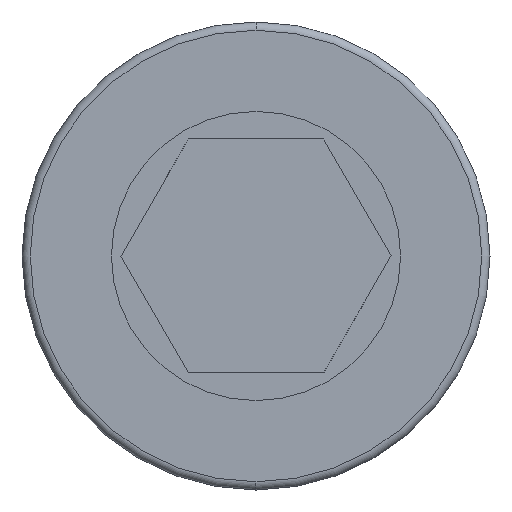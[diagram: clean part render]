
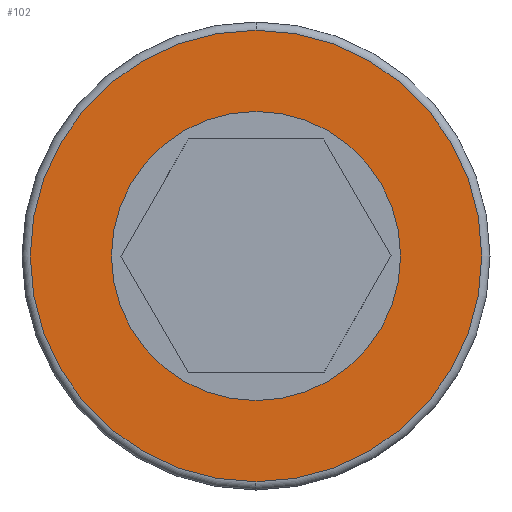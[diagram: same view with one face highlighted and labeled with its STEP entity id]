
A CAD part, front view. The second image highlights one B-rep face of the part: STEP entity #102.
In plain terms, the highlighted planar face has unit normal (0, -1, 0).
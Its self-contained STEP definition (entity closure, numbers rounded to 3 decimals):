
#102=ADVANCED_FACE('',(#183,#184),#185,.T.);
#183=FACE_OUTER_BOUND('',#330,.T.);
#184=FACE_BOUND('',#331,.T.);
#185=PLANE('',#332);
#330=EDGE_LOOP('',(#532,#533));
#331=EDGE_LOOP('',(#534,#535));
#332=AXIS2_PLACEMENT_3D('',#536,#537,#538);
#532=ORIENTED_EDGE('',*,*,#984,.T.);
#533=ORIENTED_EDGE('',*,*,#992,.T.);
#534=ORIENTED_EDGE('',*,*,#991,.F.);
#535=ORIENTED_EDGE('',*,*,#988,.F.);
#536=CARTESIAN_POINT('',(0.,3.5,-8.0));
#537=DIRECTION('',(0.,-1.0,0.));
#538=DIRECTION('',(-1.0,0.,0.));
#984=EDGE_CURVE('',#1149,#1147,#1150,.T.);
#988=EDGE_CURVE('',#1155,#1157,#1158,.T.);
#991=EDGE_CURVE('',#1157,#1155,#1161,.T.);
#992=EDGE_CURVE('',#1147,#1149,#1162,.T.);
#1147=VERTEX_POINT('',#1393);
#1149=VERTEX_POINT('',#1395);
#1150=CIRCLE('',#1396,16.4);
#1155=VERTEX_POINT('',#1401);
#1157=VERTEX_POINT('',#1404);
#1158=CIRCLE('',#1405,8.0);
#1161=CIRCLE('',#1409,8.0);
#1162=CIRCLE('',#1410,16.4);
#1393=CARTESIAN_POINT('',(0.,3.5,16.4));
#1395=CARTESIAN_POINT('',(0.,3.5,-16.4));
#1396=AXIS2_PLACEMENT_3D('',#1778,#1779,#1780);
#1401=CARTESIAN_POINT('',(0.,3.5,8.0));
#1404=CARTESIAN_POINT('',(0.,3.5,-8.0));
#1405=AXIS2_PLACEMENT_3D('',#1788,#1789,#1790);
#1409=AXIS2_PLACEMENT_3D('',#1795,#1796,#1797);
#1410=AXIS2_PLACEMENT_3D('',#1798,#1799,#1800);
#1778=CARTESIAN_POINT('',(0.,3.5,0.));
#1779=DIRECTION('',(0.,-1.0,0.));
#1780=DIRECTION('',(0.,0.,-1.0));
#1788=CARTESIAN_POINT('',(0.,3.5,0.));
#1789=DIRECTION('',(0.,-1.0,0.));
#1790=DIRECTION('',(0.,0.,-1.0));
#1795=CARTESIAN_POINT('',(0.,3.5,0.));
#1796=DIRECTION('',(0.,-1.0,0.));
#1797=DIRECTION('',(0.,0.,-1.0));
#1798=CARTESIAN_POINT('',(0.,3.5,0.));
#1799=DIRECTION('',(0.,-1.0,0.));
#1800=DIRECTION('',(0.,0.,-1.0));
